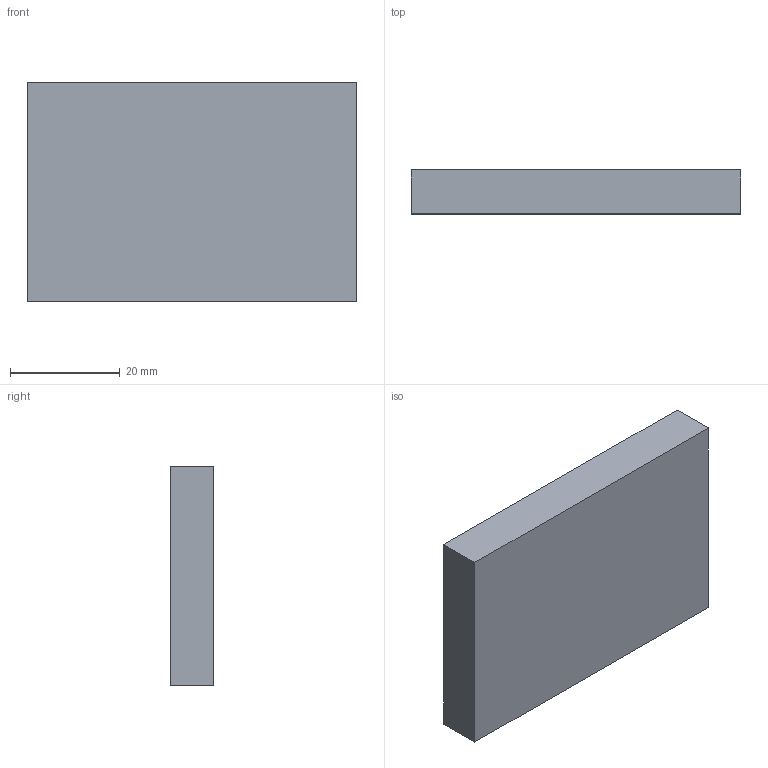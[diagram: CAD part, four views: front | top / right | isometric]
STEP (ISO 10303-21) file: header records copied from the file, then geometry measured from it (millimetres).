
FILE_DESCRIPTION(('Open CASCADE Model'),'2;1');
FILE_NAME('harness_zone','2026-08-12T02:42:46',('Author'),( 'Open CASCADE'),'Open CASCADE STEP processor 7.9','build123d', 'Unknown');
FILE_SCHEMA(('AUTOMOTIVE_DESIGN { 1 0 10303 214 1 1 1 1 }'));
Length unit declared in the file: millimetre
Products named in the file (2): harness_zone
Assembly tree (1 placements, depth 2):
  harness_zone
    harness_zone
Bounding box: 60 x 8 x 40 mm (x, y, z)
Volume: 19200 mm3; surface area: 6400 mm2
Topology: 1 solids, 1 shells, 6 faces, 12 edges, 8 vertices
Faces by surface type: plane 6
Entity records: 340 total; most frequent: CARTESIAN_POINT 52, DIRECTION 52, LINE 36, VECTOR 36, ORIENTED_EDGE 24, PCURVE 24, DEFINITIONAL_REPRESENTATION 24, EDGE_CURVE 12
